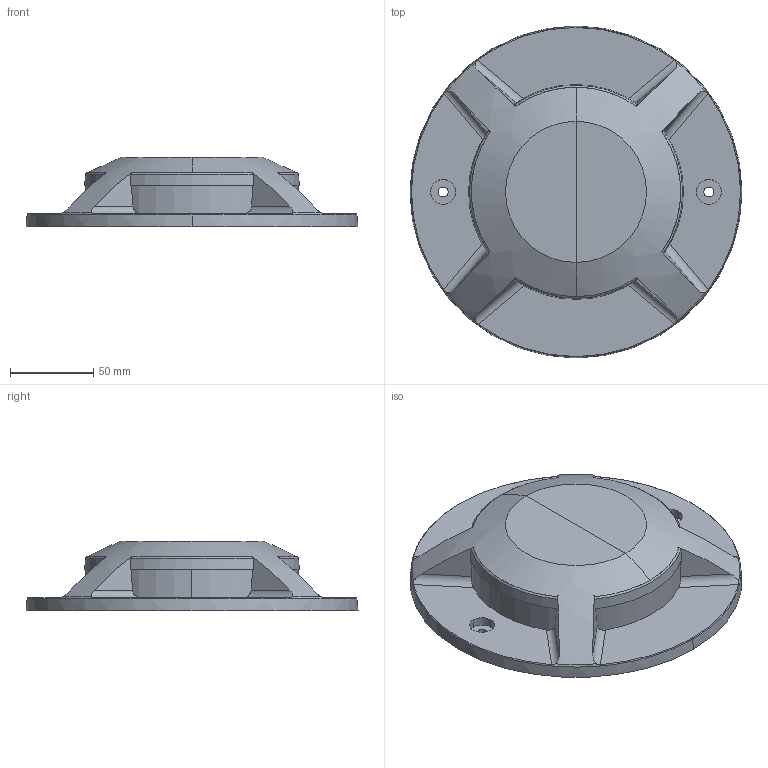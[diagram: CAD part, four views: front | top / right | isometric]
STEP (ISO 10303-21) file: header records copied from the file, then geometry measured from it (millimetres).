
FILE_DESCRIPTION(/* description */ (''),/* implementation_level */ '2;1');
FILE_NAME(/* name */ 'C:\Users\Franco Sartori E\Documents\FARO\DUPLICADO\Modelos\01_Digitalizados\0_LOTH\03_Publicación\70287.stp',/* time_stamp */ '2020-07-27T09:45:23+02:00',/* author */ ('Franco Sartori E'),/* organization */ (''),/* preprocessor_version */ 'ST-DEVELOPER v18',/* originating_system */ 'AutoCAD Mechanical',/* authorisation */ '');
FILE_SCHEMA (('AUTOMOTIVE_DESIGN { 1 0 10303 214 3 1 1 }'));
Length unit declared in the file: millimetre
Products named in the file (2): Product; 70287_LOTH - LOTH-452687-Export
Assembly tree (1 placements, depth 2):
  Product
    70287_LOTH - LOTH-452687-Export
Bounding box: 200 x 200 x 42 mm (x, y, z)
Volume: 623386.4 mm3; surface area: 134136 mm2
Topology: 6 solids, 6 shells, 107 faces, 292 edges, 192 vertices
Faces by surface type: plane 63, cylinder 30, torus 6, cone 6, bspline 2
Entity records: 3924 total; most frequent: CARTESIAN_POINT 1152, ORIENTED_EDGE 584, DIRECTION 552, EDGE_CURVE 292, AXIS2_PLACEMENT_3D 200, VERTEX_POINT 192, LINE 152, VECTOR 152
